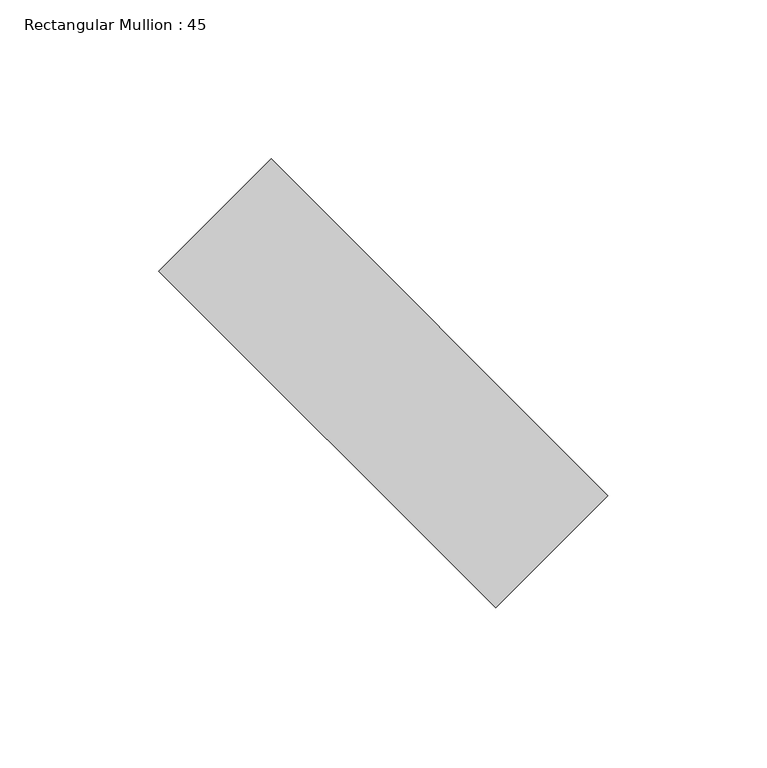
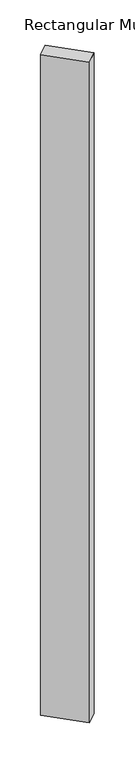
"""IFC4 building model written with IfcOpenShell, lengths in millimetres: member geometry, Rectangular Mullion : 45."""

from ifc_helpers import new_model, si_unit, frame, origin, place, context, project, spatial, polyline, outline, extrude, source, transform, mapped, element, save


def rectangular_mullion_45_1a2056f5(model_context):
    return source(origin(), model_context, "Body", "SweptSolid", [
        extrude(outline(polyline([(-35.3553391, 70.7106781), (70.7106781, -35.3553391), (35.3553391, -70.7106781), (-70.7106781, 35.3553391), (-35.3553391, 70.7106781)])), frame((0.0, 0.0, -2380.0), z_axis=(0.0, 0.0, 1.0), x_axis=(1.0, 0.0, 0.0)), (0.0, 0.0, 1.0), 2380.0),
    ])


if __name__ == "__main__":
    model = new_model("IFC4")
    model_context = context("Model", 3, world=origin())
    ifc_project = project(units=[si_unit("LENGTHUNIT", "METRE", prefix="MILLI")], contexts=[model_context])
    site = spatial("IfcSite", under=ifc_project)
    building = spatial("IfcBuilding", under=site)
    placement = place(None, origin())
    rectangular_mullion_45_shape = rectangular_mullion_45_1a2056f5(model_context)
    element("IfcMember", 1, ObjectType="Rectangular Mullion : 45", at=placement, inside=building, context=model_context, shape_type="MappedRepresentation", body=[
        mapped(rectangular_mullion_45_shape, transform((0.0, 0.0, 0.0), x_axis=(1.0, 0.0, 0.0), y_axis=(0.0, 1.0, 0.0), z_axis=(0.0, 0.0, 1.0))),
    ])
    save(model, "model.ifc")
